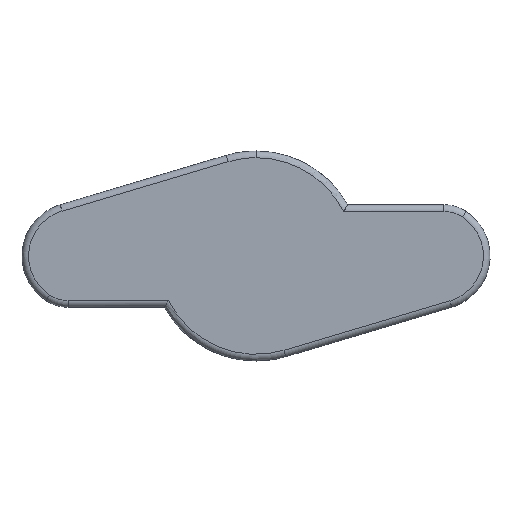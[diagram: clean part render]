
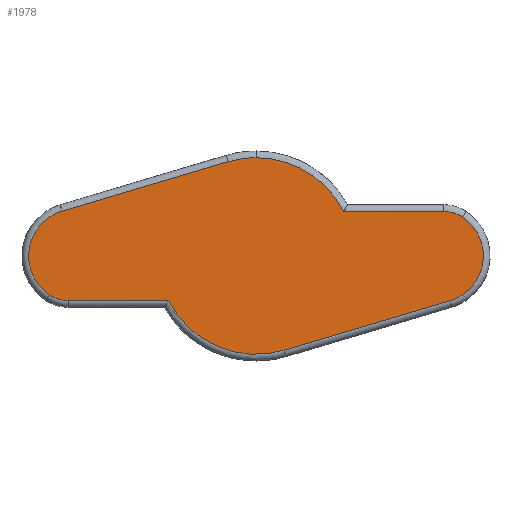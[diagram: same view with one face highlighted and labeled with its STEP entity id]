
A CAD part, front view. The second image highlights one B-rep face of the part: STEP entity #1978.
In plain terms, the highlighted planar face has unit normal (0, -1, 0).
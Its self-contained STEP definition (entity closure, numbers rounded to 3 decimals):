
#13 = VERTEX_POINT ( 'NONE', #2792 ) ;
#14 = DIRECTION ( 'NONE',  ( 0., 0., 1. ) ) ;
#22 = CARTESIAN_POINT ( 'NONE',  ( 0., 0., -3.334 ) ) ;
#35 = ORIENTED_EDGE ( 'NONE', *, *, #2438, .T. ) ;
#58 = DIRECTION ( 'NONE',  ( 0.958, 0., 0.285 ) ) ;
#60 = CIRCLE ( 'NONE', #822, 7.35 ) ;
#136 = EDGE_CURVE ( 'NONE', #165, #1284, #1957, .T. ) ;
#141 = VECTOR ( 'NONE', #874, 1000. ) ;
#161 = CARTESIAN_POINT ( 'NONE',  ( -13.5, 0., 0. ) ) ;
#165 = VERTEX_POINT ( 'NONE', #512 ) ;
#178 = CARTESIAN_POINT ( 'NONE',  ( 0., 0., 3.334 ) ) ;
#224 = ORIENTED_EDGE ( 'NONE', *, *, #2612, .T. ) ;
#234 = PLANE ( 'NONE',  #748 ) ;
#239 = DIRECTION ( 'NONE',  ( 0., 0., 1. ) ) ;
#247 = DIRECTION ( 'NONE',  ( 0., 0., 1. ) ) ;
#288 = CARTESIAN_POINT ( 'NONE',  ( 14.052, 0., 0.834 ) ) ;
#292 = CARTESIAN_POINT ( 'NONE',  ( 0., 0., 0. ) ) ;
#307 = ORIENTED_EDGE ( 'NONE', *, *, #2174, .T. ) ;
#329 = CIRCLE ( 'NONE', #2839, 3.5 ) ;
#337 = CARTESIAN_POINT ( 'NONE',  ( 0., 0., 7.35 ) ) ;
#392 = DIRECTION ( 'NONE',  ( 0., 0., 1. ) ) ;
#423 = CARTESIAN_POINT ( 'NONE',  ( -2.096, 0., 7.045 ) ) ;
#459 = EDGE_CURVE ( 'NONE', #1180, #13, #2540, .T. ) ;
#461 = ORIENTED_EDGE ( 'NONE', *, *, #2358, .T. ) ;
#512 = CARTESIAN_POINT ( 'NONE',  ( -15.432, 0., -2.919 ) ) ;
#532 = DIRECTION ( 'NONE',  ( 0., 0., 1. ) ) ;
#535 = DIRECTION ( 'NONE',  ( 0., 0., 1. ) ) ;
#548 = CIRCLE ( 'NONE', #1291, 7.35 ) ;
#575 = AXIS2_PLACEMENT_3D ( 'NONE', #161, #1782, #392 ) ;
#583 = VECTOR ( 'NONE', #1439, 1000. ) ;
#605 = DIRECTION ( 'NONE',  ( 0., 0., 1. ) ) ;
#656 = CIRCLE ( 'NONE', #1546, 7.35 ) ;
#662 = DIRECTION ( 'NONE',  ( 0., -1., 0. ) ) ;
#677 = CARTESIAN_POINT ( 'NONE',  ( -14.052, 0., -0.834 ) ) ;
#746 = VERTEX_POINT ( 'NONE', #2094 ) ;
#748 = AXIS2_PLACEMENT_3D ( 'NONE', #1167, #1632, #247 ) ;
#822 = AXIS2_PLACEMENT_3D ( 'NONE', #961, #2583, #1196 ) ;
#850 = AXIS2_PLACEMENT_3D ( 'NONE', #677, #662, #605 ) ;
#874 = DIRECTION ( 'NONE',  ( -0.958, 0., -0.285 ) ) ;
#888 = CARTESIAN_POINT ( 'NONE',  ( -2.096, 0., 7.045 ) ) ;
#912 = VECTOR ( 'NONE', #1587, 1000. ) ;
#953 = VERTEX_POINT ( 'NONE', #337 ) ;
#961 = CARTESIAN_POINT ( 'NONE',  ( 0., 0., 0. ) ) ;
#1024 = ORIENTED_EDGE ( 'NONE', *, *, #1287, .T. ) ;
#1041 = CIRCLE ( 'NONE', #1845, 2.5 ) ;
#1063 = VERTEX_POINT ( 'NONE', #1550 ) ;
#1149 = CARTESIAN_POINT ( 'NONE',  ( -14.052, 0., -3.334 ) ) ;
#1167 = CARTESIAN_POINT ( 'NONE',  ( 0., 0., 0. ) ) ;
#1180 = VERTEX_POINT ( 'NONE', #423 ) ;
#1181 = CARTESIAN_POINT ( 'NONE',  ( 2.096, 0., -7.045 ) ) ;
#1196 = DIRECTION ( 'NONE',  ( 0., 0., 1. ) ) ;
#1284 = VERTEX_POINT ( 'NONE', #1149 ) ;
#1287 = EDGE_CURVE ( 'NONE', #1899, #1572, #329, .T. ) ;
#1291 = AXIS2_PLACEMENT_3D ( 'NONE', #292, #1915, #535 ) ;
#1401 = CARTESIAN_POINT ( 'NONE',  ( 6.55, 0., 3.334 ) ) ;
#1423 = DIRECTION ( 'NONE',  ( 0., -1., 0. ) ) ;
#1439 = DIRECTION ( 'NONE',  ( 1., 0., 0. ) ) ;
#1536 = ORIENTED_EDGE ( 'NONE', *, *, #2414, .T. ) ;
#1546 = AXIS2_PLACEMENT_3D ( 'NONE', #2811, #1423, #14 ) ;
#1550 = CARTESIAN_POINT ( 'NONE',  ( -6.55, 0., -3.334 ) ) ;
#1572 = VERTEX_POINT ( 'NONE', #2125 ) ;
#1587 = DIRECTION ( 'NONE',  ( -1., 0., 0. ) ) ;
#1628 = DIRECTION ( 'NONE',  ( 0., -1., 0. ) ) ;
#1632 = DIRECTION ( 'NONE',  ( 0., 1., 0. ) ) ;
#1703 = LINE ( 'NONE', #1921, #2322 ) ;
#1737 = CIRCLE ( 'NONE', #575, 3.5 ) ;
#1782 = DIRECTION ( 'NONE',  ( 0., -1., 0. ) ) ;
#1783 = EDGE_LOOP ( 'NONE', ( #461, #35, #1024, #2096, #307, #1536, #224, #2623, #1963, #2130, #2552 ) ) ;
#1845 = AXIS2_PLACEMENT_3D ( 'NONE', #288, #1914, #532 ) ;
#1899 = VERTEX_POINT ( 'NONE', #2534 ) ;
#1914 = DIRECTION ( 'NONE',  ( 0., -1., 0. ) ) ;
#1915 = DIRECTION ( 'NONE',  ( 0., -1., 0. ) ) ;
#1921 = CARTESIAN_POINT ( 'NONE',  ( 2.096, 0., -7.045 ) ) ;
#1957 = CIRCLE ( 'NONE', #850, 2.5 ) ;
#1963 = ORIENTED_EDGE ( 'NONE', *, *, #2064, .T. ) ;
#1978 = ADVANCED_FACE ( 'NONE', ( #2498 ), #234, .F. ) ;
#1986 = VERTEX_POINT ( 'NONE', #1181 ) ;
#2064 = EDGE_CURVE ( 'NONE', #13, #165, #1737, .T. ) ;
#2094 = CARTESIAN_POINT ( 'NONE',  ( 14.052, 0., 3.334 ) ) ;
#2096 = ORIENTED_EDGE ( 'NONE', *, *, #2711, .T. ) ;
#2125 = CARTESIAN_POINT ( 'NONE',  ( 15.432, 0., 2.919 ) ) ;
#2130 = ORIENTED_EDGE ( 'NONE', *, *, #136, .T. ) ;
#2174 = EDGE_CURVE ( 'NONE', #746, #2302, #2766, .T. ) ;
#2302 = VERTEX_POINT ( 'NONE', #1401 ) ;
#2322 = VECTOR ( 'NONE', #58, 1000. ) ;
#2358 = EDGE_CURVE ( 'NONE', #1063, #1986, #60, .T. ) ;
#2414 = EDGE_CURVE ( 'NONE', #2302, #953, #548, .T. ) ;
#2438 = EDGE_CURVE ( 'NONE', #1986, #1899, #1703, .T. ) ;
#2498 = FACE_OUTER_BOUND ( 'NONE', #1783, .T. ) ;
#2534 = CARTESIAN_POINT ( 'NONE',  ( 14.498, 0., -3.355 ) ) ;
#2540 = LINE ( 'NONE', #888, #141 ) ;
#2552 = ORIENTED_EDGE ( 'NONE', *, *, #2664, .T. ) ;
#2583 = DIRECTION ( 'NONE',  ( 0., -1., 0. ) ) ;
#2612 = EDGE_CURVE ( 'NONE', #953, #1180, #656, .T. ) ;
#2623 = ORIENTED_EDGE ( 'NONE', *, *, #459, .T. ) ;
#2664 = EDGE_CURVE ( 'NONE', #1284, #1063, #2964, .T. ) ;
#2711 = EDGE_CURVE ( 'NONE', #1572, #746, #1041, .T. ) ;
#2766 = LINE ( 'NONE', #178, #912 ) ;
#2792 = CARTESIAN_POINT ( 'NONE',  ( -14.498, 0., 3.355 ) ) ;
#2811 = CARTESIAN_POINT ( 'NONE',  ( 0., 0., 0. ) ) ;
#2839 = AXIS2_PLACEMENT_3D ( 'NONE', #3007, #1628, #239 ) ;
#2964 = LINE ( 'NONE', #22, #583 ) ;
#3007 = CARTESIAN_POINT ( 'NONE',  ( 13.5, 0., 0. ) ) ;
